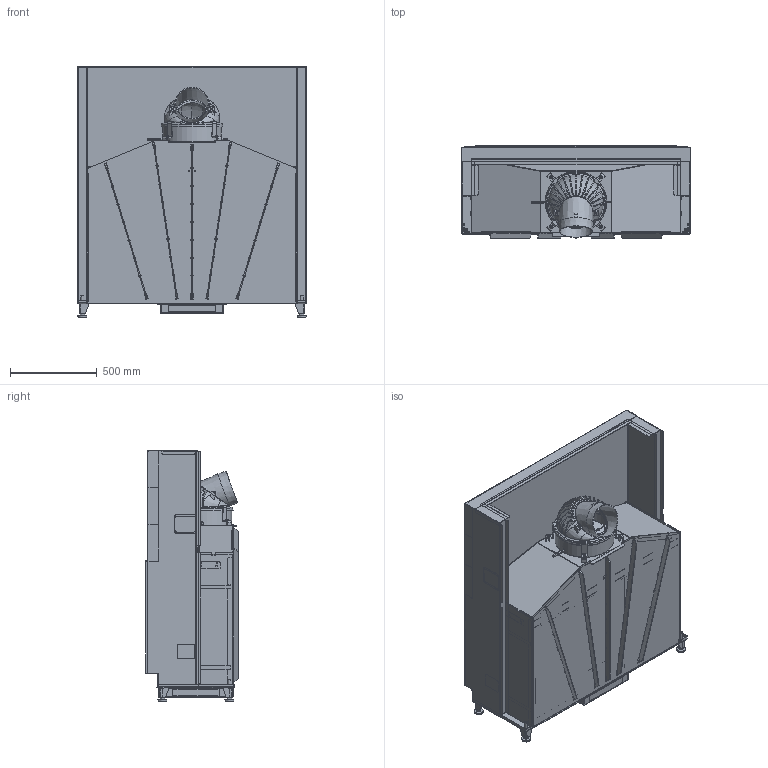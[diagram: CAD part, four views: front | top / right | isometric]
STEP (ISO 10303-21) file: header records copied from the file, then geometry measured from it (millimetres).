
FILE_DESCRIPTION(/* description */ (''),/* implementation_level */ '2;1');
FILE_NAME(/* name */ 'C:\ADSK_DM_WS\CAD_3D\03 Geraete\Violino 65x116\Zeichnungen\Violino 65x116 Abgang hinten ohne Mantel.stp',/* time_stamp */ '2022-11-18T10:12:05+01:00',/* author */ ('CPI'),/* organization */ (''),/* preprocessor_version */ 'ST-DEVELOPER v18.1',/* originating_system */ 'Autodesk Inventor 2022',/* authorisation */ '');
FILE_SCHEMA (('AUTOMOTIVE_DESIGN { 1 0 10303 214 3 1 1 }'));
Products named in the file (7): 2022-04362; 2022-04349; 2022-04359; 2022-04357; 2022-04355; 2022-04353; 2022-04351
Assembly tree (6 placements, depth 2):
  2022-04362
    2022-04349
    2022-04359
    2022-04357
    2022-04355
    2022-04353
    2022-04351
Bounding box: 1326 x 534.5 x 1448 mm (x, y, z)
Volume: 93006356.7 mm3; surface area: 23769101.2 mm2
Topology: 15 solids, 18 shells, 6244 faces, 17108 edges, 10778 vertices
Faces by surface type: plane 3537, cylinder 2324, bspline 201, cone 142, torus 40
Full cylindrical faces by diameter (mm): 4.5 x4, 4.8 x12, 5.6 x1, 7 x2, 7.323 x2, 8 x12, 9.5 x12, 10 x7, 11.4 x6, 16 x18, 30 x4, 163 x1, 333 x1, 339 x1
Entity records: 210392 total; most frequent: CARTESIAN_POINT 43652, ORIENTED_EDGE 34244, DIRECTION 33256, EDGE_CURVE 17130, LINE 11398, VECTOR 11398, AXIS2_PLACEMENT_3D 10929, VERTEX_POINT 10778
